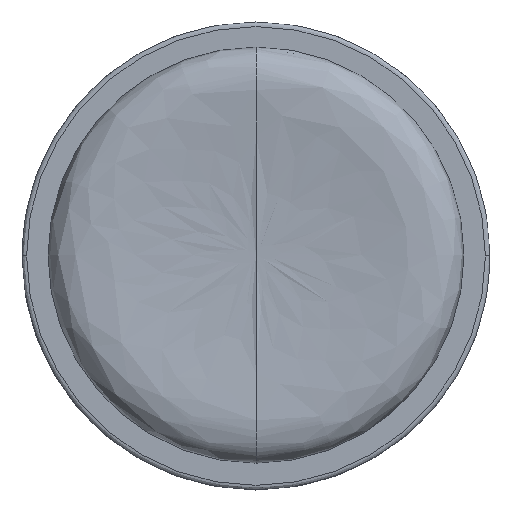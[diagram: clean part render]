
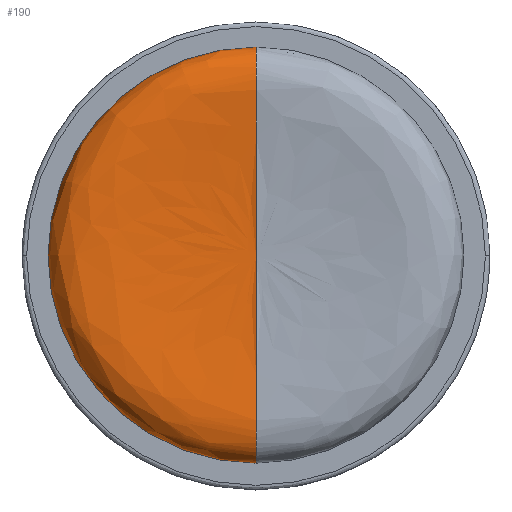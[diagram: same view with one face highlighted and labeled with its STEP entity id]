
A CAD part, top view. The second image highlights one B-rep face of the part: STEP entity #190.
In plain terms, the highlighted free-form (B-spline) face has degree [3, 2] with [6, 5] control points.
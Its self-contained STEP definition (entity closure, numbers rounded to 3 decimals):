
#7 = ORIENTED_EDGE ( 'NONE', *, *, #773, .T. ) ;
#18 = CARTESIAN_POINT ( 'NONE',  ( 0., 539.985, 733. ) ) ;
#81 = CARTESIAN_POINT ( 'NONE',  ( 0., 188.857, 751.056 ) ) ;
#83 = CARTESIAN_POINT ( 'NONE',  ( -139.188, 499.188, 761.961 ) ) ;
#90 = CARTESIAN_POINT ( 'NONE',  ( -180.217, 360., 739.165 ) ) ;
#93 = CARTESIAN_POINT ( 'NONE',  ( 0., 182.179, 746.173 ) ) ;
#100 = CARTESIAN_POINT ( 'NONE',  ( -180.217, 179.783, 739.165 ) ) ;
#110 = CARTESIAN_POINT ( 'NONE',  ( 0., 492.111, 757.573 ) ) ;
#131 = VERTEX_POINT ( 'NONE', #789 ) ;
#181 = CARTESIAN_POINT ( 'NONE',  ( 0., 360., 750. ) ) ;
#190 = ADVANCED_FACE ( 'NONE', ( #614 ), #300, .T. ) ;
#192 = CARTESIAN_POINT ( 'NONE',  ( -179.985, 539.985, 733. ) ) ;
#196 = CARTESIAN_POINT ( 'NONE',  ( 0., 360., 750. ) ) ;
#202 = CARTESIAN_POINT ( 'NONE',  ( 0., 273.804, 750. ) ) ;
#236 = CARTESIAN_POINT ( 'NONE',  ( 0., 360., 733. ) ) ;
#244 =( BOUNDED_CURVE ( )  B_SPLINE_CURVE ( 3, ( #737, #295, #553, #386, #373, #1095, #110, #827, #906, #730 ),
 .UNSPECIFIED., .F., .F. ) 
 B_SPLINE_CURVE_WITH_KNOTS ( ( 4, 3, 3, 4 ),
 ( 0., 60.979, 127.353, 193.726 ),
 .UNSPECIFIED. ) 
 CURVE ( )  GEOMETRIC_REPRESENTATION_ITEM ( )  RATIONAL_B_SPLINE_CURVE ( ( 1., 1., 1., 1., 1., 1., 1., 1., 1., 1. ) ) 
 REPRESENTATION_ITEM ( '' )  );
#262 = CARTESIAN_POINT ( 'NONE',  ( -86.195, 360., 750. ) ) ;
#272 = CARTESIAN_POINT ( 'NONE',  ( 0., 360., 750. ) ) ;
#280 = CARTESIAN_POINT ( 'NONE',  ( 0., 360., 750. ) ) ;
#283 = CARTESIAN_POINT ( 'NONE',  ( 0., 535.213, 753.801 ) ) ;
#295 = CARTESIAN_POINT ( 'NONE',  ( 0., 540.217, 739.165 ) ) ;
#300 =( BOUNDED_SURFACE ( )  B_SPLINE_SURFACE ( 3, 2, ( 
 ( #702, #433, #1078, #192, #18 ),
 ( #714, #100, #90, #450, #344 ),
 ( #1054, #525, #804, #638, #283 ),
 ( #1149, #365, #988, #83, #720 ),
 ( #202, #546, #262, #1074, #620 ),
 ( #280, #181, #196, #898, #809 ) ),
 .UNSPECIFIED., .F., .F., .T. ) 
 B_SPLINE_SURFACE_WITH_KNOTS ( ( 4, 1, 1, 4 ),
 ( 3, 2, 3 ),
 ( 0., 60.979, 127.353, 193.726 ),
 ( 0., 282.743, 565.486 ),
 .UNSPECIFIED. ) 
 GEOMETRIC_REPRESENTATION_ITEM ( )  RATIONAL_B_SPLINE_SURFACE ( (
 ( 1., 0.707, 1., 0.707, 1.),
 ( 1., 0.707, 1., 0.707, 1.),
 ( 1., 0.707, 1., 0.707, 1.),
 ( 1., 0.707, 1., 0.707, 1.),
 ( 1., 0.707, 1., 0.707, 1.),
 ( 1., 0.707, 1., 0.707, 1.) ) ) 
 REPRESENTATION_ITEM ( '' )  SURFACE ( )  );
#334 = CARTESIAN_POINT ( 'NONE',  ( 0., 179.783, 739.165 ) ) ;
#335 = EDGE_CURVE ( 'NONE', #349, #718, #362, .T. ) ;
#344 = CARTESIAN_POINT ( 'NONE',  ( 0., 540.217, 739.165 ) ) ;
#349 = VERTEX_POINT ( 'NONE', #755 ) ;
#350 = CARTESIAN_POINT ( 'NONE',  ( 0., 196.127, 756.37 ) ) ;
#362 = CIRCLE ( 'NONE', #769, 179.985 ) ;
#365 = CARTESIAN_POINT ( 'NONE',  ( -139.188, 220.812, 761.961 ) ) ;
#373 = CARTESIAN_POINT ( 'NONE',  ( 0., 523.873, 756.37 ) ) ;
#378 = EDGE_LOOP ( 'NONE', ( #470, #1128, #7 ) ) ;
#386 = CARTESIAN_POINT ( 'NONE',  ( 0., 531.143, 751.056 ) ) ;
#416 = CARTESIAN_POINT ( 'NONE',  ( 0., 539.985, 733. ) ) ;
#430 = CARTESIAN_POINT ( 'NONE',  ( 0., 247.308, 755.981 ) ) ;
#433 = CARTESIAN_POINT ( 'NONE',  ( -179.985, 180.015, 733. ) ) ;
#450 = CARTESIAN_POINT ( 'NONE',  ( -180.217, 540.217, 739.165 ) ) ;
#470 = ORIENTED_EDGE ( 'NONE', *, *, #918, .F. ) ;
#486 = DIRECTION ( 'NONE',  ( 0., -1., 0. ) ) ;
#525 = CARTESIAN_POINT ( 'NONE',  ( -175.213, 184.787, 753.801 ) ) ;
#546 = CARTESIAN_POINT ( 'NONE',  ( -86.195, 273.804, 750. ) ) ;
#553 = CARTESIAN_POINT ( 'NONE',  ( 0., 537.821, 746.173 ) ) ;
#612 = CARTESIAN_POINT ( 'NONE',  ( 0., 273.804, 750. ) ) ;
#614 = FACE_OUTER_BOUND ( 'NONE', #378, .T. ) ;
#620 = CARTESIAN_POINT ( 'NONE',  ( 0., 446.195, 750. ) ) ;
#638 = CARTESIAN_POINT ( 'NONE',  ( -175.213, 535.213, 753.801 ) ) ;
#702 = CARTESIAN_POINT ( 'NONE',  ( 0., 180.015, 733. ) ) ;
#712 = CARTESIAN_POINT ( 'NONE',  ( 0., 180.015, 733. ) ) ;
#714 = CARTESIAN_POINT ( 'NONE',  ( 0., 179.783, 739.165 ) ) ;
#718 = VERTEX_POINT ( 'NONE', #416 ) ;
#720 = CARTESIAN_POINT ( 'NONE',  ( 0., 499.188, 761.961 ) ) ;
#730 = CARTESIAN_POINT ( 'NONE',  ( 0., 360., 750. ) ) ;
#737 = CARTESIAN_POINT ( 'NONE',  ( 0., 539.985, 733. ) ) ;
#755 = CARTESIAN_POINT ( 'NONE',  ( 0., 180.015, 733. ) ) ;
#769 = AXIS2_PLACEMENT_3D ( 'NONE', #236, #1033, #486 ) ;
#773 = EDGE_CURVE ( 'NONE', #349, #131, #961, .T. ) ;
#789 = CARTESIAN_POINT ( 'NONE',  ( 0., 360., 750. ) ) ;
#804 = CARTESIAN_POINT ( 'NONE',  ( -175.213, 360., 753.801 ) ) ;
#809 = CARTESIAN_POINT ( 'NONE',  ( 0., 360., 750. ) ) ;
#827 = CARTESIAN_POINT ( 'NONE',  ( 0., 472.692, 755.981 ) ) ;
#889 = CARTESIAN_POINT ( 'NONE',  ( 0., 208.469, 759.166 ) ) ;
#898 = CARTESIAN_POINT ( 'NONE',  ( 0., 360., 750. ) ) ;
#906 = CARTESIAN_POINT ( 'NONE',  ( 0., 446.195, 750. ) ) ;
#918 = EDGE_CURVE ( 'NONE', #718, #131, #244, .T. ) ;
#961 =( BOUNDED_CURVE ( )  B_SPLINE_CURVE ( 3, ( #712, #334, #93, #81, #350, #889, #1065, #430, #612, #272 ),
 .UNSPECIFIED., .F., .F. ) 
 B_SPLINE_CURVE_WITH_KNOTS ( ( 4, 3, 3, 4 ),
 ( 0., 60.979, 127.353, 193.726 ),
 .UNSPECIFIED. ) 
 CURVE ( )  GEOMETRIC_REPRESENTATION_ITEM ( )  RATIONAL_B_SPLINE_CURVE ( ( 1., 1., 1., 1., 1., 1., 1., 1., 1., 1. ) ) 
 REPRESENTATION_ITEM ( '' )  );
#988 = CARTESIAN_POINT ( 'NONE',  ( -139.188, 360., 761.961 ) ) ;
#1033 = DIRECTION ( 'NONE',  ( 0., 0., -1. ) ) ;
#1054 = CARTESIAN_POINT ( 'NONE',  ( 0., 184.787, 753.801 ) ) ;
#1065 = CARTESIAN_POINT ( 'NONE',  ( 0., 227.889, 757.573 ) ) ;
#1074 = CARTESIAN_POINT ( 'NONE',  ( -86.195, 446.195, 750. ) ) ;
#1078 = CARTESIAN_POINT ( 'NONE',  ( -179.985, 360., 733. ) ) ;
#1095 = CARTESIAN_POINT ( 'NONE',  ( 0., 511.53, 759.166 ) ) ;
#1128 = ORIENTED_EDGE ( 'NONE', *, *, #335, .F. ) ;
#1149 = CARTESIAN_POINT ( 'NONE',  ( 0., 220.812, 761.961 ) ) ;
